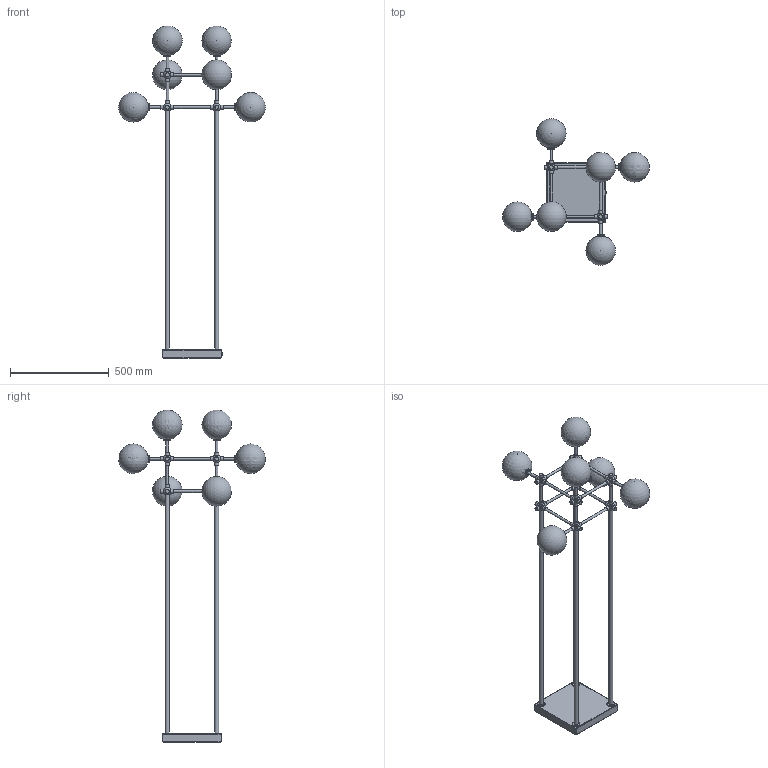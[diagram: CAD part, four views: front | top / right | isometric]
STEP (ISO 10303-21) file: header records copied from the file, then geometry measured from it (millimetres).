
FILE_DESCRIPTION(/* description */ (''),/* implementation_level */ '2;1');
FILE_NAME(/* name */ 'T:\B039 Soap Floor Lamp\Pliki bryłowe handlowe\B039 Soap 6 3D files\B039 Soap 6.stp',/* time_stamp */ '2022-01-18T09:14:43+01:00',/* author */ ('Mariusz Awariusz'),/* organization */ (''),/* preprocessor_version */ 'ST-DEVELOPER v18.1',/* originating_system */ 'Autodesk Inventor 2022',/* authorisation */ '');
FILE_SCHEMA (('AUTOMOTIVE_DESIGN { 1 0 10303 214 3 1 1 }'));
Length unit declared in the file: millimetre
Products named in the file (1): B039 Soap 6_jako część
Bounding box: 741.99 x 741.99 x 1678.62 mm (x, y, z)
Volume: 3479145.1 mm3; surface area: 1873046.5 mm2
Topology: 2 solids, 22 shells, 1089 faces, 2101 edges, 1242 vertices
Faces by surface type: plane 450, cylinder 351, cone 222, torus 40, sphere 26
Full cylindrical faces by diameter (mm): 2.693 x13, 3 x26, 4 x18, 5.5 x13, 10 x2, 11.6 x6, 11.917 x6, 13 x25, 18 x44, 18.917 x92, 20 x66, 25 x6, 33 x6, 35 x6, 40 x4
Entity records: 29109 total; most frequent: CARTESIAN_POINT 6165, DIRECTION 5288, ORIENTED_EDGE 4154, AXIS2_PLACEMENT_3D 2270, EDGE_CURVE 2077, EDGE_LOOP 1423, VERTEX_POINT 1242, FACE_OUTER_BOUND 1089
